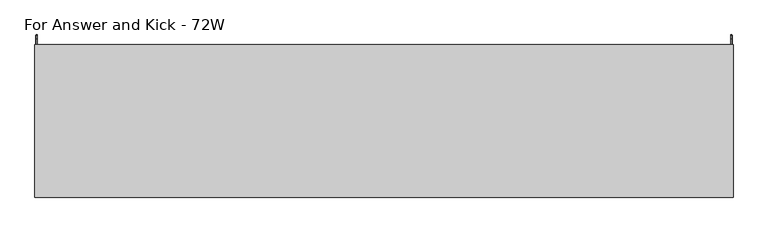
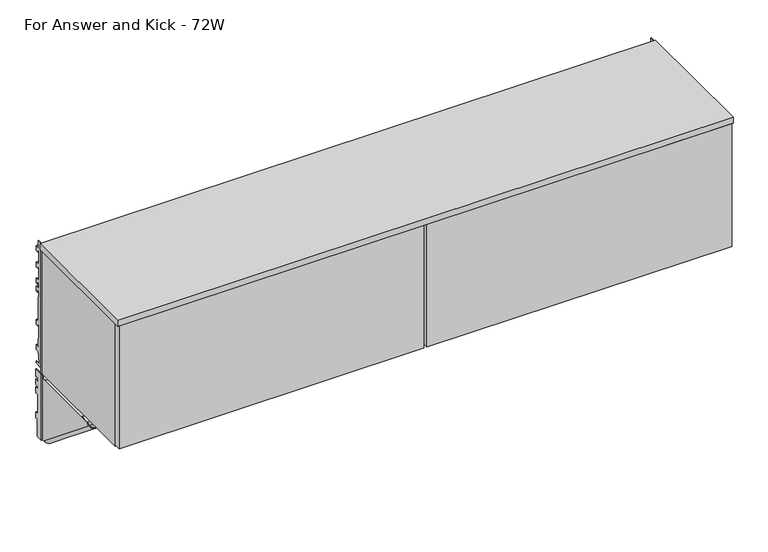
"""IFC4 building model written with IfcOpenShell, lengths in millimetres: furniture geometry, Steelcase - Universal Storage - In the Case Bin - Flat Front : For Answer and Kick - 72W."""

from ifc_helpers import new_model, si_unit, point, frame, frame_2d, origin, place, context, project, spatial, polyline, circle_curve, ellipse_curve, trimmed, segment, composite_curve, outline, extrude, faceted_brep, source, transform, mapped, element, save
from ifc_brep_helpers import plane_surface, cylinder_surface, revolved_surface, advanced_brep


def for_answer_and_kick_72w_80751bd4(model_context):
    return source(origin(), model_context, "Body", "SolidModel", [
        advanced_brep(
        [(4.0894, 24.9864881, 1247.9655), (4.0894, 1.1327479, 1247.9655), (4.0894, 1.1203386, 1040.9809), (4.0894, 17.3410881, 1040.9809), (4.0894, 17.3410881, 1101.1280822), (4.0894, 21.4050888, 1101.1280822), (4.0894, 21.4050888, 1094.7781064), (4.0894, 24.9864881, 1094.7781064), (4.0894, 24.9864881, 1113.0407271), (4.0894, 14.7756879, 1113.0407271), (4.0894, 14.7756879, 1179.6141345), (4.0894, 18.8396885, 1179.6141345), (4.0894, 18.8396885, 1173.264086), (4.0894, 24.9864881, 1173.264086), (4.0894, 24.9864881, 1191.5267068), (4.0894, 14.7756879, 1191.5267068), (4.0894, 14.7756879, 1205.7761277), (4.0894, 18.8396885, 1205.7761277), (4.0894, 18.8396885, 1199.4260793), (4.0894, 24.9864881, 1199.4260793), (4.0894, 24.9864881, 1217.6887), (4.0894, 14.7756879, 1217.6887), (4.0894, 14.7756879, 1231.9381209), (4.0894, 18.8396885, 1231.9381209), (4.0894, 18.8396885, 1225.5880725), (4.0894, 24.9864881, 1225.5880725), (2.1844, 24.9864881, 1247.9655), (2.1844, 24.9864881, 1225.5880725), (2.1844, 18.8396885, 1225.5880725), (2.1844, 18.8396885, 1231.9381209), (2.1844, 14.7756879, 1231.9381209), (2.1844, 14.7756879, 1217.6887), (2.1844, 24.9864881, 1217.6887), (2.1844, 24.9864881, 1199.4260793), (2.1844, 18.8396885, 1199.4260793), (2.1844, 18.8396885, 1205.7761277), (2.1844, 14.7756879, 1205.7761277), (2.1844, 14.7756879, 1191.5267068), (2.1844, 24.9864881, 1191.5267068), (2.1844, 24.9864881, 1173.264086), (2.1844, 18.8396885, 1173.264086), (2.1844, 18.8396885, 1179.6141345), (2.1844, 14.7756879, 1179.6141345), (2.1844, 14.7756879, 1113.0407271), (2.1844, 24.9864881, 1113.0407271), (2.1844, 24.9864881, 1094.7781064), (2.1844, 21.4050888, 1094.7781064), (2.1844, 21.4050888, 1101.1280822), (2.1844, 17.3410881, 1101.1280822), (2.1844, 17.3410881, 1040.9809), (2.1844, -0.7757522, 1040.9809), (2.1844, -0.7757522, 1247.9655), (4.4891598, -3.080512, 1247.9655), (8.1026, -3.080512, 1247.9655), (8.1026, -1.7838863, 1247.9655), (7.4942256, -1.175512, 1247.9655), (6.3852506, -1.175512, 1247.9655), (6.3852506, -1.175512, 1040.9809), (7.4942256, -1.175512, 1040.9809), (8.1026, -1.7838863, 1040.9809), (8.1026, -3.080512, 1040.9809), (4.4891598, -3.080512, 1040.9809)],
        [
            (0, 1),
            (1, 2),
            (2, 3),
            (3, 4),
            (4, 5),
            (5, 6),
            (6, 7),
            (7, 8),
            (8, 9),
            (9, 10),
            (10, 11),
            (11, 12),
            (12, 13),
            (13, 14),
            (14, 15),
            (15, 16),
            (16, 17),
            (17, 18),
            (18, 19),
            (19, 20),
            (20, 21),
            (21, 22),
            (22, 23),
            (23, 24),
            (24, 25),
            (25, 0),
            (26, 27),
            (27, 28),
            (28, 29),
            (29, 30),
            (30, 31),
            (31, 32),
            (32, 33),
            (33, 34),
            (34, 35),
            (35, 36),
            (36, 37),
            (37, 38),
            (38, 39),
            (39, 40),
            (40, 41),
            (41, 42),
            (42, 43),
            (43, 44),
            (44, 45),
            (45, 46),
            (46, 47),
            (47, 48),
            (48, 49),
            (49, 50),
            (50, 51),
            (51, 26),
            (0, 26),
            (51, 52, circle_curve(frame((4.4891598, -0.7757522, 1247.9655), z_axis=(0.0, 0.0, 1.0), x_axis=(1.0, 0.0, 0.0)), 2.3047598)),
            (52, 53),
            (53, 54),
            (54, 55, circle_curve(frame((7.4942256, -1.7838863, 1247.9655), z_axis=(0.0, 0.0, 1.0), x_axis=(1.0, 0.0, 0.0)), 0.6083744)),
            (55, 56),
            (56, 1, circle_curve(frame((6.3852506, 1.1203386, 1247.9655), z_axis=(0.0, 0.0, -1.0), x_axis=(1.0, 0.0, 0.0)), 2.2958506)),
            (2, 57, circle_curve(frame((6.3852506, 1.1203386, 1040.9809), z_axis=(0.0, 0.0, 1.0), x_axis=(1.0, 0.0, 0.0)), 2.2958506)),
            (57, 58),
            (58, 59, circle_curve(frame((7.4942256, -1.7838863, 1040.9809), z_axis=(0.0, 0.0, -1.0), x_axis=(1.0, 0.0, 0.0)), 0.6083744)),
            (59, 60),
            (60, 61),
            (61, 50, circle_curve(frame((4.4891598, -0.7757522, 1040.9809), z_axis=(0.0, 0.0, -1.0), x_axis=(1.0, 0.0, 0.0)), 2.3047598)),
            (49, 3),
            (48, 4),
            (47, 5),
            (46, 6),
            (45, 7),
            (44, 8),
            (43, 9),
            (42, 10),
            (41, 11),
            (40, 12),
            (39, 13),
            (38, 14),
            (37, 15),
            (36, 16),
            (35, 17),
            (34, 18),
            (33, 19),
            (32, 20),
            (31, 21),
            (30, 22),
            (29, 23),
            (28, 24),
            (27, 25),
            (61, 52),
            (60, 53),
            (59, 54),
            (58, 55),
            (57, 56),
        ],
        [
            plane_surface(frame((4.0894, 1.241405, 1247.9655), z_axis=(1.0, 0.0, 0.0), x_axis=(0.0, -1.0, 0.0))),
            plane_surface(frame((2.1844, 1.241405, 1247.9655), z_axis=(-1.0, 0.0, 0.0), x_axis=(0.0, 1.0, 0.0))),
            plane_surface(frame((4.0894, 24.9864881, 1247.9655), z_axis=(0.0, 0.0, 1.0), x_axis=(-1.0, 0.0, 0.0))),
            plane_surface(frame((4.0894, 1.1327479, 1040.9809), z_axis=(0.0, 0.0, -1.0), x_axis=(-1.0, 0.0, 0.0))),
            plane_surface(frame((4.0894, 17.3410881, 1040.9809), z_axis=(0.0, 1.0, 0.0), x_axis=(-1.0, 0.0, 0.0))),
            plane_surface(frame((4.0894, 17.3410881, 1101.1280822), z_axis=(0.0, 0.0, -1.0), x_axis=(-1.0, 0.0, 0.0))),
            plane_surface(frame((4.0894, 21.4050888, 1101.1280822), z_axis=(0.0, -1.0, 0.0), x_axis=(-1.0, 0.0, 0.0))),
            plane_surface(frame((4.0894, 21.4050888, 1094.7781064), z_axis=(0.0, 0.0, -1.0), x_axis=(-1.0, 0.0, 0.0))),
            plane_surface(frame((4.0894, 24.9864881, 1094.7781064), z_axis=(0.0, 1.0, 0.0), x_axis=(-1.0, 0.0, 0.0))),
            plane_surface(frame((4.0894, 24.9864881, 1113.0407271), z_axis=(0.0, 0.0, 1.0), x_axis=(-1.0, 0.0, 0.0))),
            plane_surface(frame((4.0894, 14.7756879, 1113.0407271), z_axis=(0.0, 1.0, 0.0), x_axis=(-1.0, 0.0, 0.0))),
            plane_surface(frame((4.0894, 14.7756879, 1179.6141345), z_axis=(0.0, 0.0, -1.0), x_axis=(-1.0, 0.0, 0.0))),
            plane_surface(frame((4.0894, 18.8396885, 1179.6141345), z_axis=(0.0, -1.0, 0.0), x_axis=(-1.0, 0.0, 0.0))),
            plane_surface(frame((4.0894, 18.8396885, 1173.264086), z_axis=(0.0, 0.0, -1.0), x_axis=(-1.0, 0.0, 0.0))),
            plane_surface(frame((4.0894, 24.9864881, 1173.264086), z_axis=(0.0, 1.0, 0.0), x_axis=(-1.0, 0.0, 0.0))),
            plane_surface(frame((4.0894, 24.9864881, 1191.5267068), z_axis=(0.0, 0.0, 1.0), x_axis=(-1.0, 0.0, 0.0))),
            plane_surface(frame((4.0894, 14.7756879, 1191.5267068), z_axis=(0.0, 1.0, 0.0), x_axis=(-1.0, 0.0, 0.0))),
            plane_surface(frame((4.0894, 14.7756879, 1205.7761277), z_axis=(0.0, 0.0, -1.0), x_axis=(-1.0, 0.0, 0.0))),
            plane_surface(frame((4.0894, 18.8396885, 1205.7761277), z_axis=(0.0, -1.0, 0.0), x_axis=(-1.0, 0.0, 0.0))),
            plane_surface(frame((4.0894, 18.8396885, 1199.4260793), z_axis=(0.0, 0.0, -1.0), x_axis=(-1.0, 0.0, 0.0))),
            plane_surface(frame((4.0894, 24.9864881, 1199.4260793), z_axis=(0.0, 1.0, 0.0), x_axis=(-1.0, 0.0, 0.0))),
            plane_surface(frame((4.0894, 24.9864881, 1217.6887), z_axis=(0.0, 0.0, 1.0), x_axis=(-1.0, 0.0, 0.0))),
            plane_surface(frame((4.0894, 14.7756879, 1217.6887), z_axis=(0.0, 1.0, 0.0), x_axis=(-1.0, 0.0, 0.0))),
            plane_surface(frame((4.0894, 14.7756879, 1231.9381209), z_axis=(0.0, 0.0, -1.0), x_axis=(-1.0, 0.0, 0.0))),
            plane_surface(frame((4.0894, 18.8396885, 1231.9381209), z_axis=(0.0, -1.0, 0.0), x_axis=(-1.0, 0.0, 0.0))),
            plane_surface(frame((4.0894, 18.8396885, 1225.5880725), z_axis=(0.0, 0.0, -1.0), x_axis=(-1.0, 0.0, 0.0))),
            plane_surface(frame((4.0894, 24.9864881, 1225.5880725), z_axis=(0.0, 1.0, 0.0), x_axis=(-1.0, 0.0, 0.0))),
            cylinder_surface(frame((4.4891598, -0.7757522, 1040.9809), z_axis=(0.0, 0.0, 1.0), x_axis=(1.0, 0.0, 0.0)), 2.3047598),
            plane_surface(frame((4.4891598, -3.080512, 1247.9655), z_axis=(0.0, -1.0, 0.0), x_axis=(0.0, 0.0, -1.0))),
            plane_surface(frame((8.1026, -3.080512, 1247.9655), z_axis=(1.0, 0.0, 0.0), x_axis=(0.0, 0.0, -1.0))),
            cylinder_surface(frame((7.4942256, -1.7838863, 1040.9809), z_axis=(0.0, 0.0, 1.0), x_axis=(1.0, 0.0, 0.0)), 0.6083744),
            plane_surface(frame((7.4942256, -1.175512, 1247.9655), z_axis=(0.0, 1.0, 0.0), x_axis=(0.0, 0.0, -1.0))),
            revolved_surface(polyline([(8.6811012, 1.1203386, 1040.9809), (8.6811012, 1.1203386, 1247.9655)]), (6.3852506, 1.1203386, 1040.9809), (0.0, 0.0, -1.0)),
        ],
        [
            (0, [[1, 2, 3, 4, 5, 6, 7, 8, 9, 10, 11, 12, 13, 14, 15, 16, 17, 18, 19, 20, 21, 22, 23, 24, 25, 26]]),
            (1, [[27, 28, 29, 30, 31, 32, 33, 34, 35, 36, 37, 38, 39, 40, 41, 42, 43, 44, 45, 46, 47, 48, 49, 50, 51, 52]]),
            (2, [[-1, 53, -52, 54, 55, 56, 57, 58, 59]]),
            (3, [[-3, 60, 61, 62, 63, 64, 65, -50, 66]]),
            (4, [[-4, -66, -49, 67]]),
            (5, [[-5, -67, -48, 68]]),
            (6, [[-6, -68, -47, 69]]),
            (7, [[-7, -69, -46, 70]]),
            (8, [[-8, -70, -45, 71]]),
            (9, [[-9, -71, -44, 72]]),
            (10, [[-10, -72, -43, 73]]),
            (11, [[-11, -73, -42, 74]]),
            (12, [[-12, -74, -41, 75]]),
            (13, [[-13, -75, -40, 76]]),
            (14, [[-14, -76, -39, 77]]),
            (15, [[-15, -77, -38, 78]]),
            (16, [[-16, -78, -37, 79]]),
            (17, [[-17, -79, -36, 80]]),
            (18, [[-18, -80, -35, 81]]),
            (19, [[-19, -81, -34, 82]]),
            (20, [[-20, -82, -33, 83]]),
            (21, [[-21, -83, -32, 84]]),
            (22, [[-22, -84, -31, 85]]),
            (23, [[-23, -85, -30, 86]]),
            (24, [[-24, -86, -29, 87]]),
            (25, [[-25, -87, -28, 88]]),
            (26, [[-26, -88, -27, -53]]),
            (27, [[-54, -51, -65, 89]]),
            (28, [[-55, -89, -64, 90]]),
            (29, [[-56, -90, -63, 91]]),
            (30, [[-57, -91, -62, 92]]),
            (31, [[-58, -92, -61, 93]]),
            (32, [[-59, -93, -60, -2]]),
        ],
    ),
        advanced_brep(
        [(1824.7106, 24.9864881, 1247.9655), (1824.7106, 24.9864881, 1225.5880725), (1824.7106, 18.8396885, 1225.5880725), (1824.7106, 18.8396885, 1231.9381209), (1824.7106, 14.7756879, 1231.9381209), (1824.7106, 14.7756879, 1217.6887), (1824.7106, 24.9864881, 1217.6887), (1824.7106, 24.9864881, 1199.4260793), (1824.7106, 18.8396885, 1199.4260793), (1824.7106, 18.8396885, 1205.7761277), (1824.7106, 14.7756879, 1205.7761277), (1824.7106, 14.7756879, 1191.5267068), (1824.7106, 24.9864881, 1191.5267068), (1824.7106, 24.9864881, 1173.264086), (1824.7106, 18.8396885, 1173.264086), (1824.7106, 18.8396885, 1179.6141345), (1824.7106, 14.7756879, 1179.6141345), (1824.7106, 14.7756879, 1113.0407271), (1824.7106, 24.9864881, 1113.0407271), (1824.7106, 24.9864881, 1094.7781064), (1824.7106, 21.4050888, 1094.7781064), (1824.7106, 21.4050888, 1101.1280822), (1824.7106, 17.3410881, 1101.1280822), (1824.7106, 17.3410881, 1040.9809), (1824.7106, 1.1327479, 1040.9809), (1824.7106, 1.1203386, 1247.9655), (1826.6156, -0.7757522, 1247.9655), (1826.6156, -0.7757522, 1040.9809), (1826.6156, 17.3410881, 1040.9809), (1826.6156, 17.3410881, 1101.1280822), (1826.6156, 21.4050888, 1101.1280822), (1826.6156, 21.4050888, 1094.7781064), (1826.6156, 24.9864881, 1094.7781064), (1826.6156, 24.9864881, 1113.0407271), (1826.6156, 14.7756879, 1113.0407271), (1826.6156, 14.7756879, 1179.6141345), (1826.6156, 18.8396885, 1179.6141345), (1826.6156, 18.8396885, 1173.264086), (1826.6156, 24.9864881, 1173.264086), (1826.6156, 24.9864881, 1191.5267068), (1826.6156, 14.7756879, 1191.5267068), (1826.6156, 14.7756879, 1205.7761277), (1826.6156, 18.8396885, 1205.7761277), (1826.6156, 18.8396885, 1199.4260793), (1826.6156, 24.9864881, 1199.4260793), (1826.6156, 24.9864881, 1217.6887), (1826.6156, 14.7756879, 1217.6887), (1826.6156, 14.7756879, 1231.9381209), (1826.6156, 18.8396885, 1231.9381209), (1826.6156, 18.8396885, 1225.5880725), (1826.6156, 24.9864881, 1225.5880725), (1826.6156, 24.9864881, 1247.9655), (1824.3108402, -3.080512, 1040.9809), (1820.9006, -3.080512, 1040.9809), (1820.9006, -1.7838863, 1040.9809), (1821.5089744, -1.175512, 1040.9809), (1822.4147494, -1.175512, 1040.9809), (1822.4147494, -1.175512, 1247.9655), (1821.5089744, -1.175512, 1247.9655), (1820.9006, -1.7838863, 1247.9655), (1820.9006, -3.080512, 1247.9655), (1824.3108402, -3.080512, 1247.9655)],
        [
            (0, 1),
            (1, 2),
            (2, 3),
            (3, 4),
            (4, 5),
            (5, 6),
            (6, 7),
            (7, 8),
            (8, 9),
            (9, 10),
            (10, 11),
            (11, 12),
            (12, 13),
            (13, 14),
            (14, 15),
            (15, 16),
            (16, 17),
            (17, 18),
            (18, 19),
            (19, 20),
            (20, 21),
            (21, 22),
            (22, 23),
            (23, 24),
            (24, 25),
            (25, 0),
            (26, 27),
            (27, 28),
            (28, 29),
            (29, 30),
            (30, 31),
            (31, 32),
            (32, 33),
            (33, 34),
            (34, 35),
            (35, 36),
            (36, 37),
            (37, 38),
            (38, 39),
            (39, 40),
            (40, 41),
            (41, 42),
            (42, 43),
            (43, 44),
            (44, 45),
            (45, 46),
            (46, 47),
            (47, 48),
            (48, 49),
            (49, 50),
            (50, 51),
            (51, 26),
            (0, 51),
            (50, 1),
            (49, 2),
            (48, 3),
            (47, 4),
            (46, 5),
            (45, 6),
            (44, 7),
            (43, 8),
            (42, 9),
            (41, 10),
            (40, 11),
            (39, 12),
            (38, 13),
            (37, 14),
            (36, 15),
            (35, 16),
            (34, 17),
            (33, 18),
            (32, 19),
            (31, 20),
            (30, 21),
            (29, 22),
            (28, 23),
            (27, 52, circle_curve(frame((1824.3108402, -0.7757522, 1040.9809), z_axis=(0.0, 0.0, -1.0), x_axis=(0.0, 1.0, 0.0)), 2.3047598)),
            (52, 53),
            (53, 54),
            (54, 55, circle_curve(frame((1821.5089744, -1.7838863, 1040.9809), z_axis=(0.0, 0.0, -1.0), x_axis=(0.0, 1.0, 0.0)), 0.6083744)),
            (55, 56),
            (56, 24, circle_curve(frame((1822.4147494, 1.1203386, 1040.9809), z_axis=(0.0, 0.0, 1.0), x_axis=(0.0, 1.0, 0.0)), 2.2958506)),
            (25, 57, circle_curve(frame((1822.4147494, 1.1203386, 1247.9655), z_axis=(0.0, 0.0, -1.0), x_axis=(0.0, 1.0, 0.0)), 2.2958506)),
            (57, 58),
            (58, 59, circle_curve(frame((1821.5089744, -1.7838863, 1247.9655), z_axis=(0.0, 0.0, 1.0), x_axis=(0.0, 1.0, 0.0)), 0.6083744)),
            (59, 60),
            (60, 61),
            (61, 26, circle_curve(frame((1824.3108402, -0.7757522, 1247.9655), z_axis=(0.0, 0.0, 1.0), x_axis=(0.0, 1.0, 0.0)), 2.3047598)),
            (56, 57),
            (55, 58),
            (54, 59),
            (53, 60),
            (52, 61),
        ],
        [
            plane_surface(frame((1824.7106, 24.9864881, 1247.9655), z_axis=(-1.0, 0.0, 0.0), x_axis=(0.0, 0.0, -1.0))),
            plane_surface(frame((1826.6156, 24.9864881, 1247.9655), z_axis=(1.0, 0.0, 0.0), x_axis=(0.0, 0.0, 1.0))),
            plane_surface(frame((1824.7106, 24.9864881, 1247.9655), z_axis=(0.0, 1.0, 0.0), x_axis=(1.0, 0.0, 0.0))),
            plane_surface(frame((1824.7106, 24.9864881, 1225.5880725), z_axis=(0.0, 0.0, -1.0), x_axis=(1.0, 0.0, 0.0))),
            plane_surface(frame((1824.7106, 18.8396885, 1225.5880725), z_axis=(0.0, -1.0, 0.0), x_axis=(1.0, 0.0, 0.0))),
            plane_surface(frame((1824.7106, 18.8396885, 1231.9381209), z_axis=(0.0, 0.0, -1.0), x_axis=(1.0, 0.0, 0.0))),
            plane_surface(frame((1824.7106, 14.7756879, 1231.9381209), z_axis=(0.0, 1.0, 0.0), x_axis=(1.0, 0.0, 0.0))),
            plane_surface(frame((1824.7106, 14.7756879, 1217.6887), z_axis=(0.0, 0.0, 1.0), x_axis=(1.0, 0.0, 0.0))),
            plane_surface(frame((1824.7106, 24.9864881, 1217.6887), z_axis=(0.0, 1.0, 0.0), x_axis=(1.0, 0.0, 0.0))),
            plane_surface(frame((1824.7106, 24.9864881, 1199.4260793), z_axis=(0.0, 0.0, -1.0), x_axis=(1.0, 0.0, 0.0))),
            plane_surface(frame((1824.7106, 18.8396885, 1199.4260793), z_axis=(0.0, -1.0, 0.0), x_axis=(1.0, 0.0, 0.0))),
            plane_surface(frame((1824.7106, 18.8396885, 1205.7761277), z_axis=(0.0, 0.0, -1.0), x_axis=(1.0, 0.0, 0.0))),
            plane_surface(frame((1824.7106, 14.7756879, 1205.7761277), z_axis=(0.0, 1.0, 0.0), x_axis=(1.0, 0.0, 0.0))),
            plane_surface(frame((1824.7106, 14.7756879, 1191.5267068), z_axis=(0.0, 0.0, 1.0), x_axis=(1.0, 0.0, 0.0))),
            plane_surface(frame((1824.7106, 24.9864881, 1191.5267068), z_axis=(0.0, 1.0, 0.0), x_axis=(1.0, 0.0, 0.0))),
            plane_surface(frame((1824.7106, 24.9864881, 1173.264086), z_axis=(0.0, 0.0, -1.0), x_axis=(1.0, 0.0, 0.0))),
            plane_surface(frame((1824.7106, 18.8396885, 1173.264086), z_axis=(0.0, -1.0, 0.0), x_axis=(1.0, 0.0, 0.0))),
            plane_surface(frame((1824.7106, 18.8396885, 1179.6141345), z_axis=(0.0, 0.0, -1.0), x_axis=(1.0, 0.0, 0.0))),
            plane_surface(frame((1824.7106, 14.7756879, 1179.6141345), z_axis=(0.0, 1.0, 0.0), x_axis=(1.0, 0.0, 0.0))),
            plane_surface(frame((1824.7106, 14.7756879, 1113.0407271), z_axis=(0.0, 0.0, 1.0), x_axis=(1.0, 0.0, 0.0))),
            plane_surface(frame((1824.7106, 24.9864881, 1113.0407271), z_axis=(0.0, 1.0, 0.0), x_axis=(1.0, 0.0, 0.0))),
            plane_surface(frame((1824.7106, 24.9864881, 1094.7781064), z_axis=(0.0, 0.0, -1.0), x_axis=(1.0, 0.0, 0.0))),
            plane_surface(frame((1824.7106, 21.4050888, 1094.7781064), z_axis=(0.0, -1.0, 0.0), x_axis=(1.0, 0.0, 0.0))),
            plane_surface(frame((1824.7106, 21.4050888, 1101.1280822), z_axis=(0.0, 0.0, -1.0), x_axis=(1.0, 0.0, 0.0))),
            plane_surface(frame((1824.7106, 17.3410881, 1101.1280822), z_axis=(0.0, 1.0, 0.0), x_axis=(1.0, 0.0, 0.0))),
            plane_surface(frame((1824.7106, 17.3410881, 1040.9809), z_axis=(0.0, 0.0, -1.0), x_axis=(1.0, 0.0, 0.0))),
            plane_surface(frame((1824.7106, 1.1327479, 1247.9655), z_axis=(0.0, 0.0, 1.0), x_axis=(1.0, 0.0, 0.0))),
            revolved_surface(polyline([(1822.4147494, 3.4161892, 1040.9809), (1822.4147494, 3.4161892, 1247.9655)]), (1822.4147494, 1.1203386, 1040.9809), (0.0, 0.0, -1.0)),
            plane_surface(frame((1822.4147494, -1.175512, 1247.9655), z_axis=(0.0, 1.0, 0.0), x_axis=(0.0, 0.0, -1.0))),
            cylinder_surface(frame((1821.5089744, -1.7838863, 1040.9809), z_axis=(0.0, 0.0, 1.0), x_axis=(0.0, 1.0, 0.0)), 0.6083744),
            plane_surface(frame((1820.9006, -1.7838863, 1247.9655), z_axis=(-1.0, 0.0, 0.0), x_axis=(0.0, 0.0, -1.0))),
            plane_surface(frame((1820.9006, -3.080512, 1247.9655), z_axis=(9.277170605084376e-12, -1.0, 0.0), x_axis=(0.0, 0.0, -1.0))),
            cylinder_surface(frame((1824.3108402, -0.7757522, 1040.9809), z_axis=(0.0, 0.0, 1.0), x_axis=(0.0, 1.0, 0.0)), 2.3047598),
        ],
        [
            (0, [[1, 2, 3, 4, 5, 6, 7, 8, 9, 10, 11, 12, 13, 14, 15, 16, 17, 18, 19, 20, 21, 22, 23, 24, 25, 26]]),
            (1, [[27, 28, 29, 30, 31, 32, 33, 34, 35, 36, 37, 38, 39, 40, 41, 42, 43, 44, 45, 46, 47, 48, 49, 50, 51, 52]]),
            (2, [[-1, 53, -51, 54]]),
            (3, [[-2, -54, -50, 55]]),
            (4, [[-3, -55, -49, 56]]),
            (5, [[-4, -56, -48, 57]]),
            (6, [[-5, -57, -47, 58]]),
            (7, [[-6, -58, -46, 59]]),
            (8, [[-7, -59, -45, 60]]),
            (9, [[-8, -60, -44, 61]]),
            (10, [[-9, -61, -43, 62]]),
            (11, [[-10, -62, -42, 63]]),
            (12, [[-11, -63, -41, 64]]),
            (13, [[-12, -64, -40, 65]]),
            (14, [[-13, -65, -39, 66]]),
            (15, [[-14, -66, -38, 67]]),
            (16, [[-15, -67, -37, 68]]),
            (17, [[-16, -68, -36, 69]]),
            (18, [[-17, -69, -35, 70]]),
            (19, [[-18, -70, -34, 71]]),
            (20, [[-19, -71, -33, 72]]),
            (21, [[-20, -72, -32, 73]]),
            (22, [[-21, -73, -31, 74]]),
            (23, [[-22, -74, -30, 75]]),
            (24, [[-23, -75, -29, 76]]),
            (25, [[-24, -76, -28, 77, 78, 79, 80, 81, 82]]),
            (26, [[-26, 83, 84, 85, 86, 87, 88, -52, -53]]),
            (27, [[-83, -25, -82, 89]]),
            (28, [[-84, -89, -81, 90]]),
            (29, [[-85, -90, -80, 91]]),
            (30, [[-86, -91, -79, 92]]),
            (31, [[-87, -92, -78, 93]]),
            (32, [[-88, -93, -77, -27]]),
        ],
    ),
        advanced_brep(
        [(1799.7424, -230.0833372, 1233.8431), (1799.7424, 1.1327479, 1046.6079738), (1797.6342, 1.1327479, 1046.6079738), (1797.6342, -230.0833372, 1233.8431), (1797.6342, 1.1327479, 1040.9809), (1797.6342, -7.7654502, 1040.9809), (1797.6342, -240.6555763, 1229.5716381), (1820.9006, -7.7654502, 1040.9809), (1820.9006, -240.6555763, 1229.5716381), (1820.9006, 1.1327479, 1040.9809), (1820.9006, 1.1327479, 1046.6079738), (1820.9006, -3.080512, 1050.019805), (1820.9006, -3.080512, 1233.8431), (1820.9006, -230.0833372, 1233.8431), (1818.7924009, 1.1327479, 1046.6079738), (1818.7924009, -3.080512, 1050.019805), (1818.7924009, -7.7654502, 1040.9809), (1818.7924009, -240.6555763, 1229.5716381), (1818.7924009, -230.0833372, 1233.8431), (1818.7924009, -200.311512, 1233.8431), (1818.7924009, -200.311512, 1233.0049163), (1818.7924009, -14.0787123, 1233.0049163), (1818.7924009, -14.0787123, 1233.8431), (1818.7924009, -3.080512, 1233.8431), (1818.7924009, 1.1327479, 1040.9809), (1799.7424, -7.7654502, 1040.9809), (1799.7424, -240.6555763, 1229.5716381), (1799.7424, 1.1327479, 1040.9809), (1789.8617978, -200.311512, 1233.8431), (1789.8617978, -200.311512, 1252.2581016), (1789.0236, -200.311512, 1252.2581016), (1789.0236, -200.311512, 1233.0049163), (1789.0236, -82.5825138, 1252.2581016), (1789.8617978, -82.5825138, 1252.2581016), (1789.8617978, -82.5825138, 1233.8431), (1789.0236, -82.5825138, 1233.8431), (1789.0236, -14.0787123, 1233.8431), (1789.0236, -14.0787123, 1233.0049163)],
        [
            (0, 1),
            (1, 2),
            (2, 3),
            (3, 0),
            (2, 4),
            (4, 5),
            (5, 6),
            (6, 3),
            (5, 7, ellipse_curve(frame((1809.2674, -7.7654502, 1040.9809), z_axis=(0.0, 0.0, 1.0), x_axis=(0.0, -1.0, 0.0)), 18.4853359, 11.6332)),
            (7, 8),
            (8, 6, ellipse_curve(frame((1809.2674, -240.6555763, 1229.5716381), z_axis=(0.0, 0.374606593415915, -0.9271838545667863), x_axis=(0.0, -0.9271838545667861, -0.3746065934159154)), 13.3008659, 11.6332)),
            (7, 9),
            (9, 10),
            (10, 11),
            (11, 12),
            (12, 13),
            (13, 8),
            (10, 14),
            (14, 15),
            (15, 11),
            (16, 17),
            (17, 18),
            (18, 19),
            (19, 20),
            (20, 21),
            (21, 22),
            (22, 23),
            (23, 15),
            (14, 24),
            (24, 16),
            (16, 25, ellipse_curve(frame((1809.2674005, -7.7654502, 1040.9809), z_axis=(0.0, 0.0, -1.0), x_axis=(0.0, 1.0, 0.0)), 15.135374, 9.5250005)),
            (25, 26),
            (26, 17, ellipse_curve(frame((1809.2674005, -240.6555763, 1229.5716381), z_axis=(0.0, -0.374606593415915, 0.9271838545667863), x_axis=(0.0, 0.9271838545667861, 0.3746065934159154)), 10.8904475, 9.5250005)),
            (0, 26),
            (25, 27),
            (27, 1),
            (13, 18),
            (24, 9),
            (4, 27),
            (28, 29),
            (29, 30),
            (30, 31),
            (31, 20),
            (19, 28),
            (32, 33),
            (33, 34),
            (34, 35),
            (35, 32),
            (35, 36),
            (36, 37),
            (37, 31),
            (30, 32),
            (28, 34),
            (33, 29),
            (36, 22),
            (21, 37),
            (12, 23),
        ],
        [
            plane_surface(frame((1799.7424, -241.2702093, 1242.902052), z_axis=(0.0, 0.6293204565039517, 0.7771459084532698), x_axis=(0.0, 0.7771459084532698, -0.6293204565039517))),
            plane_surface(frame((1797.6342, -241.2702093, 1242.902052), z_axis=(-1.0000000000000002, 0.0, 0.0), x_axis=(0.0, 0.7771459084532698, -0.6293204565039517))),
            cylinder_surface(frame((1809.2674, 5.728998, 1030.0533094), z_axis=(0.0, -0.7771459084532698, 0.6293204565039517), x_axis=(0.0, 0.6293204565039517, 0.7771459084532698)), 11.6332),
            plane_surface(frame((1820.9006, -247.5463438, 1235.1516726), z_axis=(1.0, 0.0, 0.0), x_axis=(0.0, 0.77714590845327, -0.6293204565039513))),
            plane_surface(frame((1820.9006, -241.2702093, 1242.902052), z_axis=(0.0, 0.6293204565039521, 0.7771459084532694), x_axis=(0.0, 0.7771459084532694, -0.6293204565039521))),
            plane_surface(frame((1818.7924009, -241.2702093, 1242.902052), z_axis=(-1.0, 0.0, 0.0), x_axis=(0.0, 0.7771459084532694, -0.6293204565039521))),
            revolved_surface(polyline([(1809.2674005, 7.3699238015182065, 1040.980900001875), (1809.2674005, -238.76446812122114, 1240.2966349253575)]), (1809.2674005, 5.728998, 1030.0533094), (0.0, 0.7771459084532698, -0.6293204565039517)),
            plane_surface(frame((1799.7424, -247.5463438, 1235.1516726), z_axis=(1.0, 0.0, 0.0), x_axis=(0.0, 0.77714590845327, -0.6293204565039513))),
            plane_surface(frame((1828.8, -257.2236519, 1222.8777011), z_axis=(0.0, -0.374606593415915, 0.9271838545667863), x_axis=(-1.0, 0.0, 0.0))),
            plane_surface(frame((1828.8, 1.1327479, 1040.9809), z_axis=(0.0, 0.0, -1.0), x_axis=(-1.0, 0.0, 0.0))),
            plane_surface(frame((1828.8, 1.1327479, 1053.6809), z_axis=(0.0, 1.0, 0.0), x_axis=(-1.0, 0.0, 0.0))),
            plane_surface(frame((1789.0236, -200.311512, 1252.2581016), z_axis=(0.0, -1.0, 0.0), x_axis=(0.0, 0.0, -1.0))),
            plane_surface(frame((1789.0236, -82.5825138, 1252.2581016), z_axis=(0.0, 1.0, 0.0), x_axis=(0.0, 0.0, 1.0))),
            plane_surface(frame((1789.0236, -200.311512, 1252.2581016), z_axis=(-1.0, 0.0, 0.0), x_axis=(0.0, 1.0, 0.0))),
            plane_surface(frame((1789.8617978, -200.311512, 1233.8431), z_axis=(1.0, 0.0, 0.0), x_axis=(0.0, 1.0, 0.0))),
            plane_surface(frame((1789.8617978, -200.311512, 1252.2581016), z_axis=(0.0, 0.0, 1.0), x_axis=(0.0, 1.0, 0.0))),
            plane_surface(frame((1789.0236, -14.0787123, 1233.8431), z_axis=(0.0, 1.0, 0.0), x_axis=(0.0, 0.0, 1.0))),
            plane_surface(frame((1789.0236, -200.311512, 1233.0049163), z_axis=(0.0, 0.0, -1.0), x_axis=(0.0, 1.0, 0.0))),
            plane_surface(frame((1820.9006, -200.311512, 1233.8431), z_axis=(0.0, 0.0, 1.0), x_axis=(0.0, 1.0, 0.0))),
            plane_surface(frame((1820.9006, -3.080512, 1050.019805), z_axis=(0.0, 1.0, 0.0), x_axis=(-1.0, 0.0, 0.0))),
        ],
        [
            (0, [[1, 2, 3, 4]]),
            (1, [[-3, 5, 6, 7, 8]]),
            (2, [[-7, 9, 10, 11]]),
            (3, [[-10, 12, 13, 14, 15, 16, 17]]),
            (4, [[18, 19, 20, -14]]),
            (5, [[21, 22, 23, 24, 25, 26, 27, 28, -19, 29, 30]]),
            (6, [[-21, 31, 32, 33]]),
            (7, [[-1, 34, -32, 35, 36]]),
            (8, [[-4, -8, -11, -17, 37, -22, -33, -34]]),
            (9, [[38, -12, -9, -6, 39, -35, -31, -30]]),
            (10, [[-38, -29, -18, -13]]),
            (10, [[-39, -5, -2, -36]]),
            (11, [[40, 41, 42, 43, -24, 44]]),
            (12, [[45, 46, 47, 48]]),
            (13, [[-48, 49, 50, 51, -42, 52]]),
            (14, [[-40, 53, -46, 54]]),
            (15, [[-41, -54, -45, -52]]),
            (16, [[-50, 55, -26, 56]]),
            (17, [[-51, -56, -25, -43]]),
            (18, [[57, -27, -55, -49, -47, -53, -44, -23, -37, -16]]),
            (19, [[-15, -20, -28, -57]]),
        ],
    ),
        advanced_brep(
        [(8.1026, -3.080512, 1050.019805), (8.1026, -3.080512, 1233.8431), (8.1026, -14.0787123, 1233.8431), (8.1026, -14.0787123, 1233.0049163), (8.1026, -200.311512, 1233.0049163), (8.1026, -200.311512, 1233.8431), (8.1026, -230.0833372, 1233.8431), (8.1026, -240.6555763, 1229.5716381), (8.1026, -7.7654502, 1040.9809), (8.1026, 1.1327479, 1040.9809), (8.1026, 1.1327479, 1046.6079738), (5.9944, -3.080512, 1233.8431), (5.9944, -3.080512, 1050.019805), (5.9944, 1.1327479, 1046.6079738), (5.9944, 1.1327479, 1040.9809), (5.9944, -7.7654502, 1040.9809), (5.9944, -240.6555763, 1229.5716381), (5.9944, -230.0833372, 1233.8431), (39.5732022, -200.311512, 1233.8431), (39.5732022, -82.5825138, 1233.8431), (40.4114, -82.5825138, 1233.8431), (40.4114, -14.0787123, 1233.8431), (29.2608, -7.7654502, 1040.9809), (29.2608, -240.6555763, 1229.5716381), (29.2608, 1.1327479, 1040.9809), (29.2608, 1.1327479, 1046.6079738), (29.2608, -230.0833372, 1233.8431), (27.1526009, 1.1327479, 1046.6079738), (27.1526009, -230.0833372, 1233.8431), (27.1526009, 1.1327479, 1040.9809), (27.1526009, -7.7654502, 1040.9809), (27.1526009, -240.6555763, 1229.5716381), (40.4114, -200.311512, 1233.0049163), (40.4114, -200.311512, 1252.2581016), (39.5732022, -200.311512, 1252.2581016), (40.4114, -14.0787123, 1233.0049163), (40.4114, -82.5825138, 1252.2581016), (39.5732022, -82.5825138, 1252.2581016)],
        [
            (0, 1),
            (1, 2),
            (2, 3),
            (3, 4),
            (4, 5),
            (5, 6),
            (6, 7),
            (7, 8),
            (8, 9),
            (9, 10),
            (10, 0),
            (11, 12),
            (12, 13),
            (13, 14),
            (14, 15),
            (15, 16),
            (16, 17),
            (17, 11),
            (17, 6),
            (5, 18),
            (18, 19),
            (19, 20),
            (20, 21),
            (21, 2),
            (1, 11),
            (0, 12),
            (10, 13),
            (15, 22, ellipse_curve(frame((17.6276, -7.7654502, 1040.9809), z_axis=(0.0, 0.0, 1.0), x_axis=(0.0, -1.0, 0.0)), 18.4853359, 11.6332)),
            (22, 23),
            (23, 16, ellipse_curve(frame((17.6276, -240.6555763, 1229.5716381), z_axis=(0.0, 0.374606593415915, -0.9271838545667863), x_axis=(0.0, -0.9271838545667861, -0.3746065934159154)), 13.3008659, 11.6332)),
            (22, 24),
            (24, 25),
            (25, 26),
            (26, 23),
            (25, 27),
            (27, 28),
            (28, 26),
            (27, 29),
            (29, 30),
            (30, 31),
            (31, 28),
            (7, 31, ellipse_curve(frame((17.6276005, -240.6555763, 1229.5716381), z_axis=(0.0, -0.374606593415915, 0.9271838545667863), x_axis=(0.0, 0.9271838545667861, 0.3746065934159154)), 10.8904475, 9.5250005)),
            (30, 8, ellipse_curve(frame((17.6276005, -7.7654502, 1040.9809), z_axis=(0.0, 0.0, -1.0), x_axis=(0.0, 1.0, 0.0)), 15.135374, 9.5250005)),
            (14, 9),
            (29, 24),
            (4, 32),
            (32, 33),
            (33, 34),
            (34, 18),
            (21, 35),
            (35, 3),
            (35, 32),
            (20, 36),
            (36, 33),
            (19, 37),
            (37, 36),
            (37, 34),
        ],
        [
            plane_surface(frame((8.1026, -230.0833372, 1233.8431), z_axis=(1.0, 0.0, 0.0), x_axis=(0.0, -1.0, 0.0))),
            plane_surface(frame((5.9944, -230.0833372, 1233.8431), z_axis=(-1.0, 0.0, 0.0), x_axis=(0.0, 1.0, 0.0))),
            plane_surface(frame((8.1026, -3.080512, 1233.8431), z_axis=(0.0, 0.0, 1.0), x_axis=(-1.0, 0.0, 0.0))),
            plane_surface(frame((8.1026, -3.080512, 1050.019805), z_axis=(0.0, 1.0, 0.0), x_axis=(-1.0, 0.0, 0.0))),
            plane_surface(frame((8.1026, -241.2702093, 1242.902052), z_axis=(0.0, 0.6293204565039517, 0.7771459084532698), x_axis=(0.0, 0.7771459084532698, -0.6293204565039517))),
            cylinder_surface(frame((17.6276, 5.728998, 1030.0533094), z_axis=(0.0, -0.7771459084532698, 0.6293204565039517), x_axis=(1.0, 0.0, 0.0)), 11.6332),
            plane_surface(frame((29.2608, -247.5463438, 1235.1516726), z_axis=(1.0000000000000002, 0.0, 0.0), x_axis=(0.0, 0.7771459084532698, -0.6293204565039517))),
            plane_surface(frame((29.2608, -241.2702093, 1242.902052), z_axis=(0.0, 0.6293204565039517, 0.7771459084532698), x_axis=(0.0, 0.7771459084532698, -0.6293204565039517))),
            plane_surface(frame((27.1526009, -241.2702093, 1242.902052), z_axis=(-1.0000000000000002, 0.0, 0.0), x_axis=(0.0, 0.7771459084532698, -0.6293204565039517))),
            revolved_surface(polyline([(27.152601, 1.375646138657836, 1033.5785848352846), (27.152601, -244.75874578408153, 1232.8943197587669)]), (17.6276005, 5.728998, 1030.0533094), (0.0, 0.7771459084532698, -0.6293204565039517)),
            plane_surface(frame((1828.8, -257.2236519, 1222.8777011), z_axis=(0.0, -0.374606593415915, 0.9271838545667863), x_axis=(-1.0, 0.0, 0.0))),
            plane_surface(frame((1828.8, 1.1327479, 1040.9809), z_axis=(0.0, 0.0, -1.0), x_axis=(-1.0, 0.0, 0.0))),
            plane_surface(frame((1828.8, 1.1327479, 1053.6809), z_axis=(0.0, 1.0, 0.0), x_axis=(-1.0, 0.0, 0.0))),
            plane_surface(frame((10.5986151, -200.311512, 1233.8431), z_axis=(0.0, -1.0, 0.0), x_axis=(-1.0, 0.0, 0.0))),
            plane_surface(frame((10.5986151, -14.0787123, 1233.8431), z_axis=(0.0, 1.0, 0.0), x_axis=(1.0, 0.0, 0.0))),
            plane_surface(frame((8.1026, -200.311512, 1233.0049163), z_axis=(0.0, 0.0, -1.0), x_axis=(0.0, 1.0, 0.0))),
            plane_surface(frame((40.4114, -200.311512, 1233.0049163), z_axis=(1.0, 0.0, 0.0), x_axis=(0.0, 1.0, 0.0))),
            plane_surface(frame((38.1509305, -82.5825138, 1252.2581016), z_axis=(0.0, 1.0, 0.0), x_axis=(1.0, 0.0, 0.0))),
            plane_surface(frame((40.4114, -200.311512, 1252.2581016), z_axis=(0.0, 0.0, 1.0), x_axis=(0.0, 1.0, 0.0))),
            plane_surface(frame((39.5732022, -200.311512, 1252.2581016), z_axis=(-1.0, 0.0, 0.0), x_axis=(0.0, 1.0, 0.0))),
        ],
        [
            (0, [[1, 2, 3, 4, 5, 6, 7, 8, 9, 10, 11]]),
            (1, [[12, 13, 14, 15, 16, 17, 18]]),
            (2, [[-18, 19, -6, 20, 21, 22, 23, 24, -2, 25]]),
            (3, [[-1, 26, -12, -25]]),
            (4, [[-26, -11, 27, -13]]),
            (5, [[-16, 28, 29, 30]]),
            (6, [[-29, 31, 32, 33, 34]]),
            (7, [[-33, 35, 36, 37]]),
            (8, [[-36, 38, 39, 40, 41]]),
            (9, [[-8, 42, -40, 43]]),
            (10, [[-7, -19, -17, -30, -34, -37, -41, -42]]),
            (11, [[44, -9, -43, -39, 45, -31, -28, -15]]),
            (12, [[-44, -14, -27, -10]]),
            (12, [[-45, -38, -35, -32]]),
            (13, [[46, 47, 48, 49, -20, -5]]),
            (14, [[50, 51, -3, -24]]),
            (15, [[-46, -4, -51, 52]]),
            (16, [[-47, -52, -50, -23, 53, 54]]),
            (17, [[-53, -22, 55, 56]]),
            (18, [[-48, -54, -56, 57]]),
            (19, [[-49, -57, -55, -21]]),
        ],
    ),
        faceted_brep([(1809.8516023, -9.7789998, 1640.3955), (1809.8516023, -9.7789998, 1652.2572326), (1809.8516023, -10.6172003, 1652.2572326), (1809.8516023, -10.6172003, 1639.557281), (1809.8516023, -0.8382, 1639.557281), (1809.8516023, -0.8382266, 1640.3955), (17.0434001, -9.7789998, 1640.3955), (17.0434001, -0.8382, 1640.3955), (17.0434001, -0.8382011, 1639.557281), (17.0434001, -10.6172003, 1639.557281), (17.0434001, -10.6172003, 1652.2572326), (17.0434001, -9.7789998, 1652.2572326), (1812.4837557, -30.9238769, 1640.3955), (1813.3187599, -30.850824, 1640.3955), (1810.6930117, -0.8382, 1640.3955), (1824.7106, -0.8382, 1640.3955), (1824.7106, 0.1784978, 1640.3955), (2.1844, 0.1784978, 1640.3955), (2.1844, -0.8382, 1640.3955), (16.2019988, -0.8382, 1640.3955), (13.5762335, -30.850824, 1640.3955), (14.4176356, -30.850824, 1640.3955), (1824.7106, 0.1784978, 1247.9655), (1824.7106, -0.8382, 1247.9655), (1810.6930117, -0.8382, 1247.9655), (1813.3187599, -30.850824, 1247.9655), (1812.4837557, -30.9238769, 1247.9655), (1809.8516, -0.8382, 1247.9655), (17.0434002, -0.8382, 1247.9655), (14.4176356, -30.850824, 1247.9655), (13.5762335, -30.850824, 1247.9655), (16.2019988, -0.8382, 1247.9655), (2.1844, -0.8382, 1247.9655), (2.1844, 0.1784978, 1247.9655)], [[[0, 1, 2, 3, 4, 5]], [[6, 7, 8, 9, 10, 11]], [[1, 0, 6, 11]], [[2, 1, 11, 10]], [[3, 2, 10, 9]], [[4, 3, 9, 8]], [[0, 5, 12, 13, 14, 15, 16, 17, 18, 19, 20, 21, 7, 6]], [[22, 23, 24, 25, 26, 27, 28, 29, 30, 31, 32, 33]], [[17, 16, 22, 33]], [[18, 17, 33, 32]], [[19, 18, 32, 31]], [[20, 19, 31, 30]], [[21, 20, 30, 29]], [[7, 21, 29, 28, 8]], [[28, 27, 4, 8]], [[12, 5, 4, 27, 26]], [[13, 12, 26, 25]], [[14, 13, 25, 24]], [[15, 14, 24, 23]], [[16, 15, 23, 22]]]),
        faceted_brep([(1793.3415999, -61.4680004, 1256.4236903), (1793.3415999, -61.4680004, 1248.8037), (1793.3415999, -60.6298021, 1248.8037), (1793.3415999, -60.6298021, 1256.4236903), (33.5534002, -61.4680004, 1256.4236903), (33.5534002, -60.6298021, 1256.4236903), (33.5534002, -60.6298021, 1248.8037), (33.5534002, -61.468, 1248.8037), (17.0434001, -61.4680004, 1248.8037), (17.0434001, -61.4680004, 1247.9655), (1809.8516023, -61.4680004, 1247.9655), (1809.8516023, -61.4680004, 1248.8037), (1809.8516023, -0.8382, 1247.9655), (1809.8516023, -0.8382, 1248.8037), (17.0434001, -0.8382, 1248.8037), (17.0434001, -0.8382, 1247.9655)], [[[0, 1, 2, 3]], [[4, 5, 6, 7]], [[1, 0, 4, 7, 8, 9, 10, 11]], [[3, 2, 6, 5]], [[0, 3, 5, 4]], [[11, 10, 12, 13]], [[8, 14, 15, 9]], [[12, 10, 9, 15]], [[13, 12, 15, 14]], [[11, 13, 14, 8, 7, 6, 2, 1]]]),
        extrude(outline(composite_curve([segment(polyline([(-343.4401318, 1291.8437595), (-377.213238, 1291.8437595), (-377.213238, 1639.09375), (-30.850824, 1639.09375), (-30.850824, 1638.0577444), (-372.9486617, 1638.0577444)]), True, "CONTINUOUS"), segment(trimmed(circle_curve(frame_2d((-372.9486617, 1635.1839261)), 2.8738183), [point((-372.9486617, 1638.0577444))], [point((-375.82248, 1635.1839261))], True, "CARTESIAN"), True, "CONTINUOUS"), segment(polyline([(-375.82248, 1635.1839261), (-375.82248, 1292.9867129), (-343.4401318, 1292.9867129), (-343.4401318, 1291.8437595)]), True, "CONTINUOUS")], self_intersect=False)), frame((906.1266311, 0.0, 0.0), z_axis=(1.0, 0.0, 0.0), x_axis=(0.0, 1.0, 0.0)), (0.0, 0.0, 1.0), 16.5467378),
        extrude(outline(polyline([(1828.8, -399.4977324), (0.0, -399.4977324), (0.0, 0.0), (1828.8, 0.0), (1828.8, -399.4977324)])), frame((0.0, 0.0, 1639.490625), z_axis=(0.0, 0.0, 1.0), x_axis=(1.0, 0.0, 0.0)), (0.0, 0.0, 1.0), 19.05),
        extrude(outline(polyline([(4.4448587, -378.8585852), (909.828, -378.8585852), (909.828, -399.0261526), (4.4448587, -399.0261526), (4.4448587, -378.8585852)])), frame((0.0, 0.0, 1253.2134107), z_axis=(0.0, 0.0, 1.0), x_axis=(1.0, 0.0, 0.0)), (0.0, 0.0, 1.0), 386.3690475),
        extrude(outline(polyline([(918.972, -378.8585852), (1824.3703, -378.8585852), (1824.3703, -399.0261526), (918.972, -399.0261526), (918.972, -378.8585852)])), frame((0.0, 0.0, 1253.2134107), z_axis=(0.0, 0.0, 1.0), x_axis=(1.0, 0.0, 0.0)), (0.0, 0.0, 1.0), 386.3690475),
        extrude(outline(polyline([(0.0, 1657.096), (15.428165, 1657.096), (15.428165, 1635.9725192), (24.6737648, 1635.9725192), (24.6737648, 1620.2499324), (17.7141651, 1620.2499324), (17.7141651, 1627.4034202), (15.428165, 1627.4034202), (13.3707653, 1623.8398995), (13.3707653, 1584.7332049), (24.4959651, 1584.7332049), (24.4959651, 1569.0106181), (17.7141651, 1569.0106181), (17.7141651, 1576.1734076), (15.428165, 1576.1734076), (13.3707653, 1572.6099624), (13.3707653, 1533.4938907), (24.6737648, 1533.4938907), (24.6737648, 1517.7713038), (17.5768, 1517.7713038), (17.5768, 1524.9340934), (15.4248855, 1524.9340934), (13.3349998, 1521.3219111), (13.3349998, 1508.4166423), (24.6737648, 1508.4166423), (24.6737648, 1492.6940555), (17.5768, 1492.6940555), (17.5768, 1499.856845), (15.4205129, 1499.856845), (13.3933344, 1496.3530466), (13.3933344, 1483.6530466), (15.428165, 1479.2893385), (15.428165, 1403.8551467), (24.6737648, 1403.8551467), (24.6737648, 1388.1325599), (17.7141651, 1388.1325599), (17.7141651, 1395.2982562), (15.428165, 1395.2982562), (13.3306079, 1391.6651808), (13.3306079, 1353.5651808), (15.428165, 1349.9321054), (15.428165, 1325.1000701), (24.6737648, 1325.1000701), (24.6737648, 1309.3774833), (17.7141651, 1309.3774833), (17.7141651, 1316.5328605), (15.428165, 1316.5328605), (15.428165, 1303.5355433), (13.2046809, 1299.684356), (13.2046809, 1282.9679719), (11.2879653, 1282.9679719), (11.2879653, 1271.9303504), (26.4009645, 1271.9303504), (26.4009645, 1265.428), (0.0, 1265.428), (0.0, 1657.096)])), frame((1823.2882, 0.0, 0.0), z_axis=(1.0, 0.0, 0.0), x_axis=(0.0, 1.0, 0.0)), (0.0, 0.0, 1.0), 1.905),
        extrude(outline(polyline([(0.0, 1657.096), (15.428165, 1657.096), (15.428165, 1635.9725192), (24.6737648, 1635.9725192), (24.6737648, 1620.2499324), (17.7141651, 1620.2499324), (17.7141651, 1627.4034202), (15.428165, 1627.4034202), (13.3707653, 1623.8398995), (13.3707653, 1584.7332049), (24.4959651, 1584.7332049), (24.4959651, 1569.0106181), (17.7141651, 1569.0106181), (17.7141651, 1576.1734076), (15.428165, 1576.1734076), (13.3707653, 1572.6099624), (13.3707653, 1533.4938907), (24.6737648, 1533.4938907), (24.6737648, 1517.7713038), (17.5768, 1517.7713038), (17.5768, 1524.9340934), (15.4248855, 1524.9340934), (13.3349998, 1521.3219111), (13.3349998, 1508.4166423), (24.6737648, 1508.4166423), (24.6737648, 1492.6940555), (17.5768, 1492.6940555), (17.5768, 1499.856845), (15.4205129, 1499.856845), (13.3933344, 1496.3530466), (13.3933344, 1483.6530466), (15.428165, 1479.2893385), (15.428165, 1403.8551467), (24.6737648, 1403.8551467), (24.6737648, 1388.1325599), (17.7141651, 1388.1325599), (17.7141651, 1395.2982562), (15.428165, 1395.2982562), (13.3306079, 1391.6651808), (13.3306079, 1353.5651808), (15.428165, 1349.9321054), (15.428165, 1325.1000701), (24.6737648, 1325.1000701), (24.6737648, 1309.3774833), (17.7141651, 1309.3774833), (17.7141651, 1316.5328605), (15.428165, 1316.5328605), (15.428165, 1303.5355433), (13.2046809, 1299.684356), (13.2046809, 1282.9679719), (11.2879653, 1282.9679719), (11.2879653, 1271.9303504), (26.4009645, 1271.9303504), (26.4009645, 1265.428), (0.0, 1265.428), (0.0, 1657.096)])), frame((3.6068, 0.0, 0.0), z_axis=(1.0, 0.0, 0.0), x_axis=(0.0, 1.0, 0.0)), (0.0, 0.0, 1.0), 1.905),
        extrude(outline(polyline([(15.875, -377.213238), (5.5118, -377.213238), (5.5118, 0.0), (15.875, 0.0), (15.875, -377.213238)])), frame((0.0, 0.0, 1247.9655), z_axis=(0.0, 0.0, 1.0), x_axis=(1.0, 0.0, 0.0)), (0.0, 0.0, 1.0), 391.2710707),
        extrude(outline(polyline([(1827.6568665, -377.213238), (1812.925, -377.213238), (1812.925, 0.0), (1827.6568665, 0.0), (1827.6568665, -377.213238)])), frame((0.0, 0.0, 1247.9655), z_axis=(0.0, 0.0, 1.0), x_axis=(1.0, 0.0, 0.0)), (0.0, 0.0, 1.0), 391.2710707),
        extrude(outline(polyline([(-35.4584098, 1372.819257), (-27.0763996, 1372.819257), (-27.0763996, 1360.1191601), (-33.4264117, 1360.1191601), (-33.4264117, 1323.1622589), (-27.0763996, 1323.1622589), (-27.0763996, 1265.428), (-35.4584098, 1265.428), (-35.4584098, 1293.054213), (-46.1263996, 1293.054213), (-46.1263996, 1268.1875622), (-59.9694137, 1268.1875622), (-59.9694137, 1294.8575912), (-332.8542818, 1294.8575912), (-332.8542818, 1268.1875622), (-377.3042823, 1268.1875622), (-377.3042823, 1310.7072052), (-35.4584098, 1310.7072052), (-35.4584098, 1372.819257)])), frame((15.875, 0.0, 0.0), z_axis=(1.0, 0.0, 0.0), x_axis=(0.0, 1.0, 0.0)), (0.0, 0.0, 1.0), 1797.05),
    ])


if __name__ == "__main__":
    model = new_model("IFC4")
    model_context = context("Model", 3, world=origin())
    ifc_project = project(units=[si_unit("LENGTHUNIT", "METRE", prefix="MILLI")], contexts=[model_context])
    site = spatial("IfcSite", under=ifc_project)
    building = spatial("IfcBuilding", under=site)
    placement = place(None, origin())
    for_answer_and_kick_72w_shape = for_answer_and_kick_72w_80751bd4(model_context)
    element("IfcFurniture", 1, ObjectType="Steelcase - Universal Storage - In the Case Bin - Flat Front : For Answer and Kick - 72W", at=placement, inside=building, context=model_context, shape_type="MappedRepresentation", body=[
        mapped(for_answer_and_kick_72w_shape, transform((0.0, 0.0, 0.0), x_axis=(1.0, 0.0, 0.0), y_axis=(0.0, 1.0, 0.0), z_axis=(0.0, 0.0, 1.0))),
    ])
    save(model, "model.ifc")
